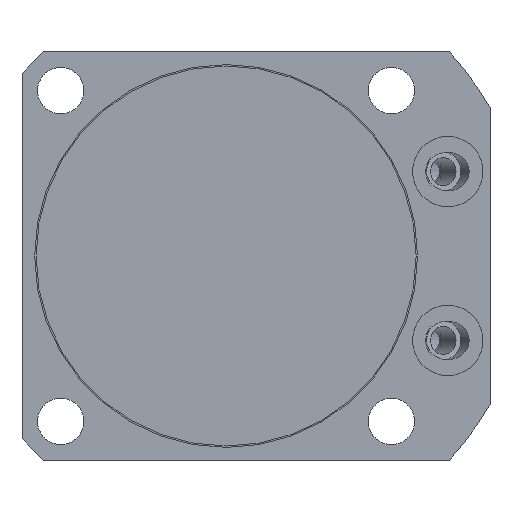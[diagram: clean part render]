
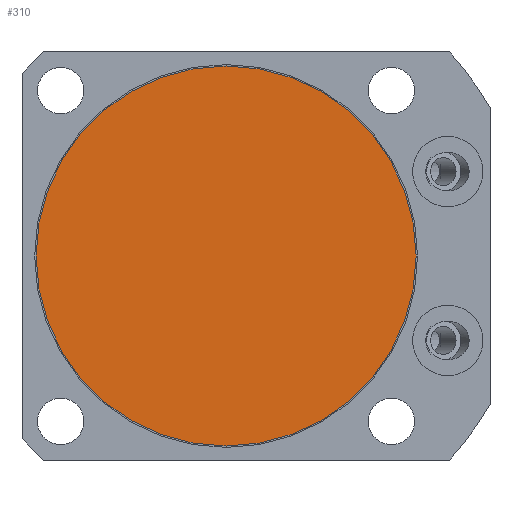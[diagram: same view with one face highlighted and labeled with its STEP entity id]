
A CAD part, front view. The second image highlights one B-rep face of the part: STEP entity #310.
In plain terms, the highlighted planar face has unit normal (0, -1, 0).
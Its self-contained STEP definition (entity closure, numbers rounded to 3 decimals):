
#310 = ADVANCED_FACE( '', ( #502 ), #503, .F. );
#502 = FACE_OUTER_BOUND( '', #854, .T. );
#503 = PLANE( '', #855 );
#854 = EDGE_LOOP( '', ( #1357 ) );
#855 = AXIS2_PLACEMENT_3D( '', #1358, #1359, #1360 );
#1357 = ORIENTED_EDGE( '', *, *, #2146, .T. );
#1358 = CARTESIAN_POINT( '', ( 0., -69., 27. ) );
#1359 = DIRECTION( '', ( 0., 1., 0. ) );
#1360 = DIRECTION( '', ( 0., 0., -1. ) );
#2146 = EDGE_CURVE( '', #2508, #2508, #2509, .T. );
#2508 = VERTEX_POINT( '', #3263 );
#2509 = CIRCLE( '', #3264, 27. );
#3263 = CARTESIAN_POINT( '', ( 0., -69., 27. ) );
#3264 = AXIS2_PLACEMENT_3D( '', #3928, #3929, #3930 );
#3928 = CARTESIAN_POINT( '', ( 0., -69., 0. ) );
#3929 = DIRECTION( '', ( 0., -1., 0. ) );
#3930 = DIRECTION( '', ( 0., 0., 1. ) );
